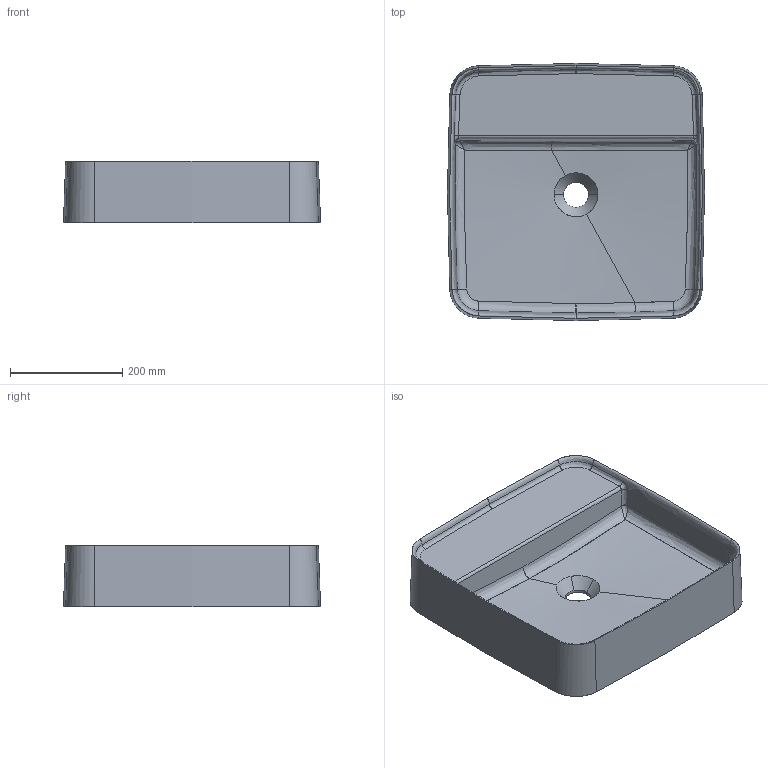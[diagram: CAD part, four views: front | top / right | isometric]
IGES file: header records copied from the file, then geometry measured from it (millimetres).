
Start section: START RECORD GO HERE.
Global section: file name: ART 7412 45x45 quadro.igs; native system: DASSAULT SYSTEMES CATIA V5 R19 - www.3ds.com; preprocessor: CATIA Version 5 Release 19 SP 5 ; author: Luca; organization: DESKTOP-V7SON24; date: 20181015.135323; units: millimetre
Bounding box: 457.68 x 457.68 x 110 mm (x, y, z)
Surface area: 772535.4 mm2 (no closed solid volume)
Topology: 0 solids, 0 shells, 89 faces, 445 edges, 443 vertices
Faces by surface type: bspline 55, extrusion 16, revolution 12, plane 6
